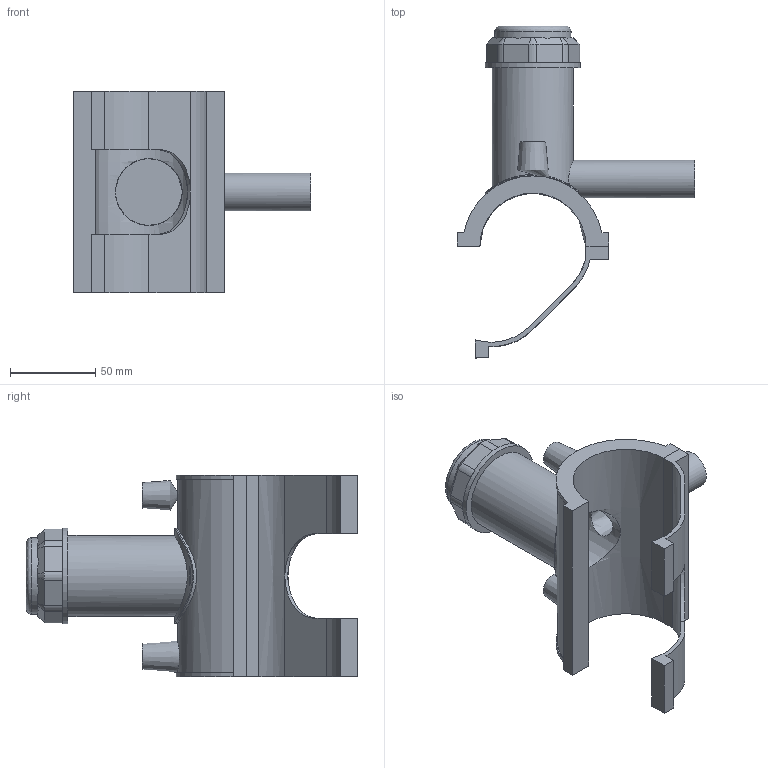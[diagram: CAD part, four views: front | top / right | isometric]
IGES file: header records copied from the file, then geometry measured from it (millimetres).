
Global section: file name: 5963BU03020007.ipt; native system: Autodesk Inventor 2019; preprocessor: unknown; author: KIM; date: 20210830.101443; units: millimetre
Bounding box: 139.45 x 194.46 x 118.11 mm (x, y, z)
Volume: 258200.1 mm3; surface area: 91321.9 mm2
Topology: 3 solids, 3 shells, 109 faces, 269 edges, 176 vertices
Faces by surface type: plane 64, cylinder 23, cone 11, revolution 10, bspline 1
Full cylindrical faces by diameter (mm): 4 x2, 22.1 x1, 44.712 x1, 47.507 x1, 55.89 x1
